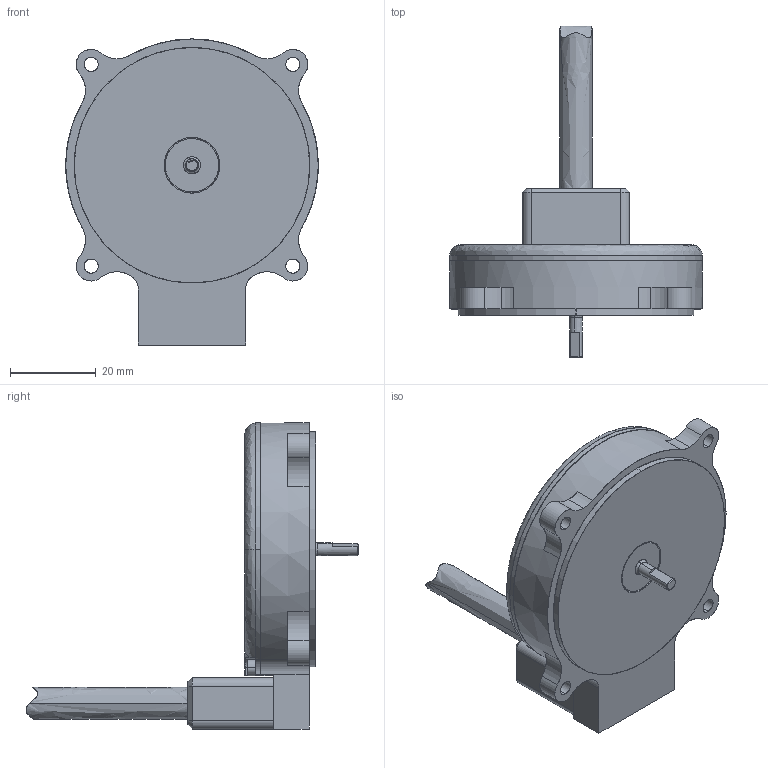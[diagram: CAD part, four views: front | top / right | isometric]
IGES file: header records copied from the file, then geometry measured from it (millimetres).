
Start section: SolidWorks IGES file using analytic representation for surfaces
Global section: file name: C:\Zettlex Data\Mechanical Drawings\1615\58mm Screw Mount 3.000mm Solid VFL1 Rev 1-0.IGS; native system: SolidWorks 2017; preprocessor: SolidWorks 2017; author: Istvan; date: 180126.103200; units: millimetre
Bounding box: 59 x 77.55 x 71.5 mm (x, y, z)
Surface area: 19020.3 mm2 (no closed solid volume)
Topology: 0 solids, 0 shells, 460 faces, 5840 edges, 5832 vertices
Faces by surface type: bspline 321, revolution 139
